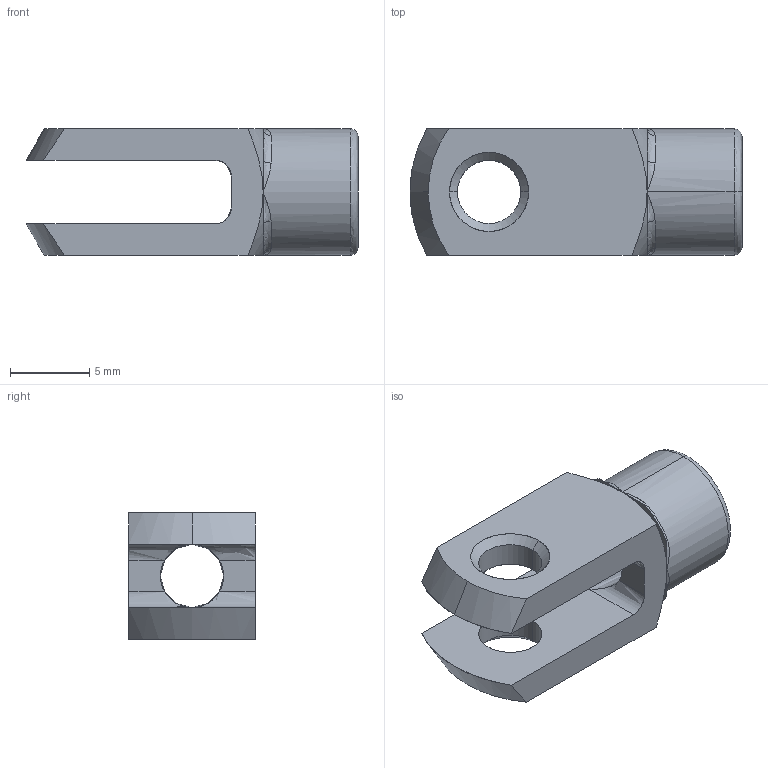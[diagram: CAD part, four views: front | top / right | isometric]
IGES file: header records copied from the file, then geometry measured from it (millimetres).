
Start section: SolidWorks IGES file using analytic representation for surfaces
Global section: file name: C:\Documents and Settings\IANO\My Documents\Wix and Auto CAD Work\CAD Models\Parametric Models\Wix Models\60000\65635_v2\65635_v2_IGES\65635.W0040.igs; native system: SolidWorks 2009; preprocessor: SolidWorks 2009; author: IANO; date: 140117.130326; units: millimetre
Bounding box: 21 x 8 x 8 mm (x, y, z)
Surface area: 885.1 mm2 (no closed solid volume)
Topology: 0 solids, 0 shells, 52 faces, 638 edges, 630 vertices
Faces by surface type: bspline 27, revolution 25
